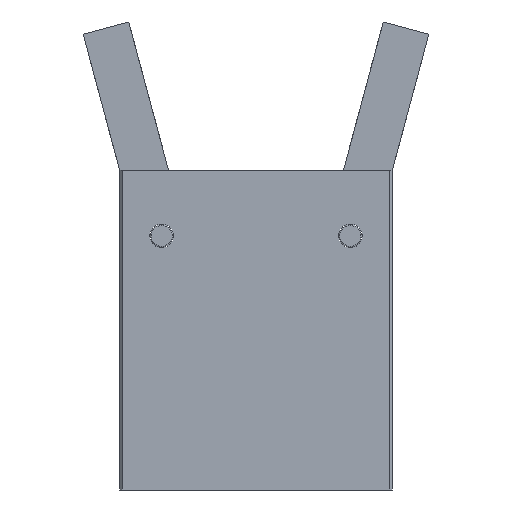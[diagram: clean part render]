
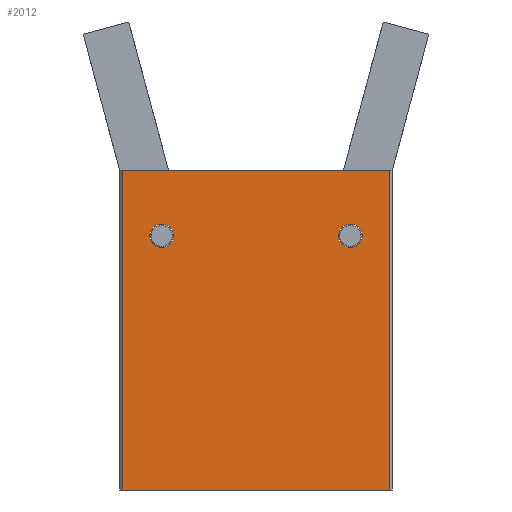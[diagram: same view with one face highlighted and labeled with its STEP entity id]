
A CAD part, left-side view. The second image highlights one B-rep face of the part: STEP entity #2012.
In plain terms, the highlighted planar face has unit normal (-1, 0, 0).
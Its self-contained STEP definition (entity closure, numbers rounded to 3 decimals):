
#141=LINE('',#3250,#313);
#181=LINE('',#3343,#353);
#183=LINE('',#3348,#355);
#184=LINE('',#3350,#356);
#313=VECTOR('',#2681,51.);
#353=VECTOR('',#2777,51.);
#355=VECTOR('',#2785,61.);
#356=VECTOR('',#2788,61.);
#457=PLANE('',#2220);
#556=FACE_BOUND('',#879,.T.);
#557=FACE_BOUND('',#880,.T.);
#681=FACE_OUTER_BOUND('',#878,.T.);
#878=EDGE_LOOP('',(#1871,#1872,#1873,#1874));
#879=EDGE_LOOP('',(#1875));
#880=EDGE_LOOP('',(#1876));
#927=CIRCLE('',#2128,2.25);
#928=CIRCLE('',#2130,2.25);
#1066=VERTEX_POINT('',#3108);
#1067=VERTEX_POINT('',#3111);
#1117=VERTEX_POINT('',#3247);
#1118=VERTEX_POINT('',#3249);
#1142=VERTEX_POINT('',#3340);
#1143=VERTEX_POINT('',#3342);
#1285=EDGE_CURVE('',#1066,#1066,#927,.T.);
#1286=EDGE_CURVE('',#1067,#1067,#928,.T.);
#1342=EDGE_CURVE('',#1117,#1118,#141,.T.);
#1387=EDGE_CURVE('',#1143,#1142,#181,.T.);
#1389=EDGE_CURVE('',#1117,#1143,#183,.T.);
#1390=EDGE_CURVE('',#1118,#1142,#184,.T.);
#1871=ORIENTED_EDGE('',*,*,#1387,.T.);
#1872=ORIENTED_EDGE('',*,*,#1390,.F.);
#1873=ORIENTED_EDGE('',*,*,#1342,.F.);
#1874=ORIENTED_EDGE('',*,*,#1389,.T.);
#1875=ORIENTED_EDGE('',*,*,#1285,.T.);
#1876=ORIENTED_EDGE('',*,*,#1286,.T.);
#2012=ADVANCED_FACE('',(#681,#556,#557),#457,.T.);
#2128=AXIS2_PLACEMENT_3D('',#3109,#2531,#2532);
#2130=AXIS2_PLACEMENT_3D('',#3112,#2535,#2536);
#2220=AXIS2_PLACEMENT_3D('',#3349,#2786,#2787);
#2531=DIRECTION('center_axis',(1.,0.,0.));
#2532=DIRECTION('ref_axis',(0.,0.,1.));
#2535=DIRECTION('center_axis',(1.,0.,0.));
#2536=DIRECTION('ref_axis',(0.,0.,1.));
#2681=DIRECTION('',(0.,1.,0.));
#2777=DIRECTION('',(0.,1.,0.));
#2785=DIRECTION('',(0.,0.,1.));
#2786=DIRECTION('center_axis',(-1.,0.,0.));
#2787=DIRECTION('ref_axis',(0.,0.,1.));
#2788=DIRECTION('',(0.,0.,1.));
#3108=CARTESIAN_POINT('',(-16.,18.,46.25));
#3109=CARTESIAN_POINT('Origin',(-16.,18.,48.5));
#3111=CARTESIAN_POINT('',(-16.,-18.,46.25));
#3112=CARTESIAN_POINT('Origin',(-16.,-18.,48.5));
#3247=CARTESIAN_POINT('',(-16.,-25.5,0.));
#3249=CARTESIAN_POINT('',(-16.,25.5,0.));
#3250=CARTESIAN_POINT('',(-16.,-25.5,0.));
#3340=CARTESIAN_POINT('',(-16.,25.5,61.));
#3342=CARTESIAN_POINT('',(-16.,-25.5,61.));
#3343=CARTESIAN_POINT('',(-16.,-25.5,61.));
#3348=CARTESIAN_POINT('',(-16.,-25.5,0.));
#3349=CARTESIAN_POINT('Origin',(-16.,-25.5,0.));
#3350=CARTESIAN_POINT('',(-16.,25.5,0.));
